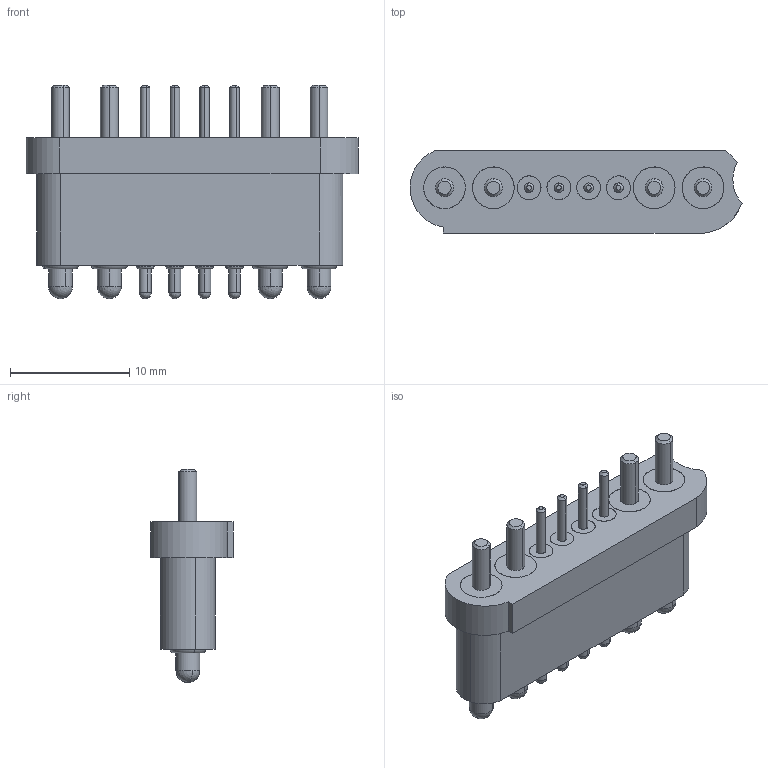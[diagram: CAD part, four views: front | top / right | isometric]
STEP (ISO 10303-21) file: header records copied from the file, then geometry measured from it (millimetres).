
FILE_DESCRIPTION((''),'2;1');
FILE_NAME('NC4678-08PA_ASM','2022-05-27T20:04:19',('USER'),(''),'CREO PARAMETRIC BY PTC INC, 2018400','CREO PARAMETRIC BY PTC INC, 2018400','');
FILE_SCHEMA(('CONFIG_CONTROL_DESIGN'));
Length unit declared in the file: millimetre
Products named in the file (5): 15APIN0; 1A_PIN00; _PIN_HOLDER_20001; MALE_POGO_PIN_ASM; NC4678-08PA_ASM
Assembly tree (10 placements, depth 3):
  NC4678-08PA_ASM
    MALE_POGO_PIN_ASM
      15APIN0  x4
      1A_PIN00  x4
      _PIN_HOLDER_20001
Bounding box: 27.87 x 6.9 x 17.9 mm (x, y, z)
Volume: 1504.9 mm3; surface area: 2473.2 mm2
Topology: 9 solids, 9 shells, 199 faces, 489 edges, 309 vertices
Faces by surface type: cylinder 103, plane 48, torus 16, cone 16, sphere 16
Entity records: 2977 total; most frequent: DIRECTION 590, CARTESIAN_POINT 479, ORIENTED_EDGE 434, AXIS2_PLACEMENT_3D 258, EDGE_CURVE 217, VERTEX_POINT 147, CIRCLE 143, EDGE_LOOP 122
